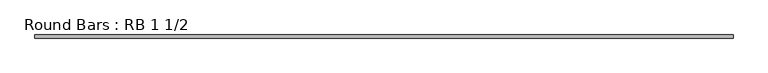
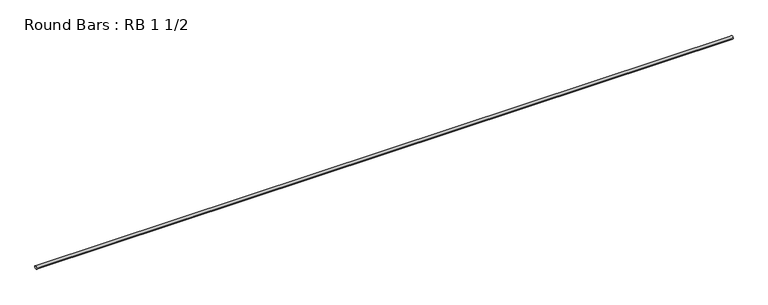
"""IFC4 building model written with IfcOpenShell, lengths in millimetres: member geometry, Round Bars : RB 1 1/2."""

import ifcopenshell
import ifcopenshell.guid

model = None  # the IFC model being written
_history = None  # IfcOwnerHistory: only IFC2X3 demands one
_inside = {}  # id of a spatial element -> (the spatial element, [elements in it])
_under = {}  # id of a project, library or spatial element -> (it, [spatial elements below it])
_declared = {}  # id of a project -> (the project, [libraries it declares])
_typed = {}  # id of a type object -> (the type object, [elements of that type])
_made_of = {}  # id of a material, layer set ... -> (it, [elements and type objects made of it])


def new_model(schema):
    """Start an empty IFC model of exactly this schema.

    Asked for "IFC4X3", IfcOpenShell would pick the latest addendum, in which some entities
    have other attributes; the version numbers below select the first issue.
    IFC2X3 requires an IfcOwnerHistory on every rooted entity: one is made here for all.
    """
    global model, _history
    if schema == "IFC4X3":
        model = ifcopenshell.file(schema_version=(4, 3, 0, 0))
    else:
        model = ifcopenshell.file(schema=schema)
    _inside.clear()
    _under.clear()
    _declared.clear()
    _typed.clear()
    _made_of.clear()
    _history = None
    if model.schema == "IFC2X3":
        org = make("IfcOrganization", Name="unknown")
        user = make(
            "IfcPersonAndOrganization",
            ThePerson=make("IfcPerson", FamilyName="unknown"),
            TheOrganization=org,
        )
        app = make(
            "IfcApplication",
            ApplicationDeveloper=org,
            Version="unknown",
            ApplicationFullName="unknown",
            ApplicationIdentifier="unknown",
        )
        _history = make(
            "IfcOwnerHistory",
            OwningUser=user,
            OwningApplication=app,
            ChangeAction="ADDED",
            CreationDate=0,
        )
    return model


def make(cls, **values):
    """One entity of the class cls with the attributes given. An attribute that is None is left unset."""
    return model.create_entity(
        cls, **{name: value for name, value in values.items() if value is not None}
    )


def rooted(cls, **values):
    """An entity with a GlobalId (a new one), such as an element, a storey or a relation."""
    return make(cls, GlobalId=ifcopenshell.guid.new(), OwnerHistory=_history, **values)


def si_unit(unit_type, name, prefix=None):
    """IfcSIUnit, for example si_unit("LENGTHUNIT", "METRE", prefix="MILLI")."""
    return make("IfcSIUnit", UnitType=unit_type, Prefix=prefix, Name=name)


def assignment(units):
    """IfcUnitAssignment: the units of a project."""
    return None if units is None else make("IfcUnitAssignment", Units=units)


def point(xyz):
    """IfcCartesianPoint."""
    return None if xyz is None else make("IfcCartesianPoint", Coordinates=xyz)


def direction(xyz):
    """IfcDirection."""
    return None if xyz is None else make("IfcDirection", DirectionRatios=xyz)


def frame(location, z_axis=None, x_axis=None):
    """IfcAxis2Placement3D, a coordinate frame: its origin and axes. An axis left out is left unset."""
    return make(
        "IfcAxis2Placement3D",
        Location=point(location),
        Axis=direction(z_axis),
        RefDirection=direction(x_axis),
    )


def frame_2d(location, x_axis=None):
    """IfcAxis2Placement2D, a coordinate frame in the plane: its origin and x axis."""
    return make(
        "IfcAxis2Placement2D", Location=point(location), RefDirection=direction(x_axis)
    )


def origin():
    """The frame at (0, 0, 0) with its axes left unset."""
    return frame((0.0, 0.0, 0.0))


def origin_2d():
    """The frame at (0, 0) in the plane with its x axis left unset."""
    return frame_2d((0.0, 0.0))


def place(relative_to, where):
    """IfcLocalPlacement: puts the frame where relative to a parent placement (None: the world)."""
    return make(
        "IfcLocalPlacement", PlacementRelTo=relative_to, RelativePlacement=where
    )


def context(
    kind, dimensions, precision=None, world=None, true_north=None, identifier=None
):
    """IfcGeometricRepresentationContext, for example the 3D "Model" context."""
    return make(
        "IfcGeometricRepresentationContext",
        ContextIdentifier=identifier,
        ContextType=kind,
        CoordinateSpaceDimension=dimensions,
        Precision=precision,
        WorldCoordinateSystem=world,
        TrueNorth=true_north,
    )


def project(units=None, contexts=None):
    """IfcProject with its units and contexts."""
    return rooted(
        "IfcProject",
        Name="project",
        RepresentationContexts=contexts,
        UnitsInContext=assignment(units),
    )


def spatial(cls, under=None, at=None, **own):
    """A site, building, storey or space (cls), placed at a placement, below another one or the project."""
    s = rooted(cls, ObjectPlacement=at, **own)
    if under is not None:
        _under.setdefault(under.id(), (under, []))[1].append(s)
    return s


def circle_curve(where, radius):
    """IfcCircle in the frame where."""
    return make("IfcCircle", Position=where, Radius=radius)


def trimmed(basis, trim1, trim2, sense, master):
    """IfcTrimmedCurve: the piece of a basis curve between two trims."""
    return make(
        "IfcTrimmedCurve",
        BasisCurve=basis,
        Trim1=trim1,
        Trim2=trim2,
        SenseAgreement=sense,
        MasterRepresentation=master,
    )


def segment(curve, same_sense, transition):
    """IfcCompositeCurveSegment."""
    return make(
        "IfcCompositeCurveSegment",
        Transition=transition,
        SameSense=same_sense,
        ParentCurve=curve,
    )


def composite_curve(segments, self_intersect=None):
    """IfcCompositeCurve: segments joined end to end."""
    return make("IfcCompositeCurve", Segments=segments, SelfIntersect=self_intersect)


def outline(outer, holes=None, kind="AREA"):
    """IfcArbitraryClosedProfileDef: a profile drawn as a closed curve; with holes, ...WithVoids."""
    if holes is None:
        return make("IfcArbitraryClosedProfileDef", ProfileType=kind, OuterCurve=outer)
    return make(
        "IfcArbitraryProfileDefWithVoids",
        ProfileType=kind,
        OuterCurve=outer,
        InnerCurves=holes,
    )


def extrude(swept, where, along, depth):
    """IfcExtrudedAreaSolid: the profile swept, set in the frame where, extruded along a direction by depth."""
    return make(
        "IfcExtrudedAreaSolid",
        SweptArea=swept,
        Position=where,
        ExtrudedDirection=direction(along),
        Depth=depth,
    )


def shape(context_of_items, identifier, shape_type, items):
    """IfcShapeRepresentation: the items that make up one representation, for example the "Body"."""
    return make(
        "IfcShapeRepresentation",
        ContextOfItems=context_of_items,
        RepresentationIdentifier=identifier,
        RepresentationType=shape_type,
        Items=items,
    )


def source(mapping_origin, context_of_items, identifier, shape_type, items):
    """IfcRepresentationMap: a shape defined once, which mapped items show again and again."""
    return make(
        "IfcRepresentationMap",
        MappingOrigin=mapping_origin,
        MappedRepresentation=shape(context_of_items, identifier, shape_type, items),
    )


def transform(
    local_origin,
    x_axis=None,
    y_axis=None,
    z_axis=None,
    scale=None,
    scale2=None,
    scale3=None,
    uniform=True,
):
    """IfcCartesianTransformationOperator3D, or its non-uniform kind. x_axis, y_axis, z_axis: its Axis1, 2, 3."""
    if uniform:
        return make(
            "IfcCartesianTransformationOperator3D",
            Axis1=direction(x_axis),
            Axis2=direction(y_axis),
            LocalOrigin=point(local_origin),
            Scale=scale,
            Axis3=direction(z_axis),
        )
    return make(
        "IfcCartesianTransformationOperator3DnonUniform",
        Axis1=direction(x_axis),
        Axis2=direction(y_axis),
        LocalOrigin=point(local_origin),
        Scale=scale,
        Axis3=direction(z_axis),
        Scale2=scale2,
        Scale3=scale3,
    )


def mapped(mapping_source, mapping_target):
    """IfcMappedItem: shows the shape of a source again, moved by a transform."""
    return make(
        "IfcMappedItem", MappingSource=mapping_source, MappingTarget=mapping_target
    )


def made_of(thing, what):
    """Note that an element or type object is made of a material, layer set ...; save() writes the relation."""
    if what is not None:
        _made_of.setdefault(what.id(), (what, []))[1].append(thing)
    return thing


def element(
    cls,
    number,
    at=None,
    inside=None,
    cuts=None,
    type_object=None,
    material=None,
    context=None,
    identifier="Body",
    shape_type=None,
    held_by="IfcProductDefinitionShape",
    body=None,
    shapes=None,
    **own,
):
    """One element of the class cls, such as IfcWall. Its Tag is "e" and its number.

    at: its placement. inside: the storey or other place that contains it. cuts: it is an
    opening in that element (IfcRelVoidsElement). A single representation is given by context,
    identifier, shape_type and body (its items); several are given by shapes. held_by: the class
    of the entity that holds the representations. save() writes the other relations.
    """
    e = rooted(cls, Tag="e%d" % number, ObjectPlacement=at, **own)
    if body is not None:
        shapes = [shape(context, identifier, shape_type, body)]
    if shapes is not None:
        e.Representation = make(held_by, Representations=shapes)
    if inside is not None:
        _inside.setdefault(inside.id(), (inside, []))[1].append(e)
    if cuts is not None:
        rooted(
            "IfcRelVoidsElement", RelatingBuildingElement=cuts, RelatedOpeningElement=e
        )
    if type_object is not None:
        _typed.setdefault(type_object.id(), (type_object, []))[1].append(e)
    return made_of(e, material)


def aggregate(whole, parts):
    """IfcRelAggregates: a whole, such as a stair, and the parts it consists of."""
    return rooted("IfcRelAggregates", RelatingObject=whole, RelatedObjects=parts)


def save(model, path):
    """Write the relations noted so far, then the file.

    IfcRelAggregates (storeys below a building ...), IfcRelContainedInSpatialStructure (elements
    in a storey), IfcRelDefinesByType, IfcRelAssociatesMaterial and IfcRelDeclares: one each for
    every whole, place, type object, material and project.
    """
    for whole, parts in _under.values():
        aggregate(whole, parts)
    for where, things in _inside.values():
        rooted(
            "IfcRelContainedInSpatialStructure",
            RelatedElements=things,
            RelatingStructure=where,
        )
    for kind, things in _typed.values():
        rooted("IfcRelDefinesByType", RelatedObjects=things, RelatingType=kind)
    for what, things in _made_of.values():
        rooted("IfcRelAssociatesMaterial", RelatedObjects=things, RelatingMaterial=what)
    for by, libraries in _declared.values():
        rooted("IfcRelDeclares", RelatingContext=by, RelatedDefinitions=libraries)
    model.write(path)


def round_bars_rb_1_1_2_4f7fb45f(model_context):
    return source(origin(), model_context, "Body", "SweptSolid", [
        extrude(outline(composite_curve([segment(trimmed(circle_curve(origin_2d(), 19.05), [point((19.05, 0.0))], [point((-19.05, 0.0))], False, "CARTESIAN"), True, "CONTINUOUS"), segment(trimmed(circle_curve(origin_2d(), 19.05), [point((-19.05, 0.0))], [point((19.05, 0.0))], False, "CARTESIAN"), True, "CONTINUOUS")], self_intersect=False)), frame((-4213.3775655, 0.0, 0.0), z_axis=(1.0, 0.0, 0.0), x_axis=(0.0, 1.0, 0.0)), (0.0, 0.0, 1.0), 8426.7551308),
    ])


if __name__ == "__main__":
    model = new_model("IFC4")
    model_context = context("Model", 3, world=origin())
    ifc_project = project(units=[si_unit("LENGTHUNIT", "METRE", prefix="MILLI")], contexts=[model_context])
    site = spatial("IfcSite", under=ifc_project)
    building = spatial("IfcBuilding", under=site)
    placement = place(None, origin())
    round_bars_rb_1_1_2_shape = round_bars_rb_1_1_2_4f7fb45f(model_context)
    element("IfcMember", 1, ObjectType="Round Bars : RB 1 1/2", at=placement, inside=building, context=model_context, shape_type="MappedRepresentation", body=[
        mapped(round_bars_rb_1_1_2_shape, transform((0.0, 0.0, 0.0), x_axis=(1.0, 0.0, 0.0), y_axis=(0.0, 1.0, 0.0), z_axis=(0.0, 0.0, 1.0))),
    ])
    save(model, "model.ifc")
